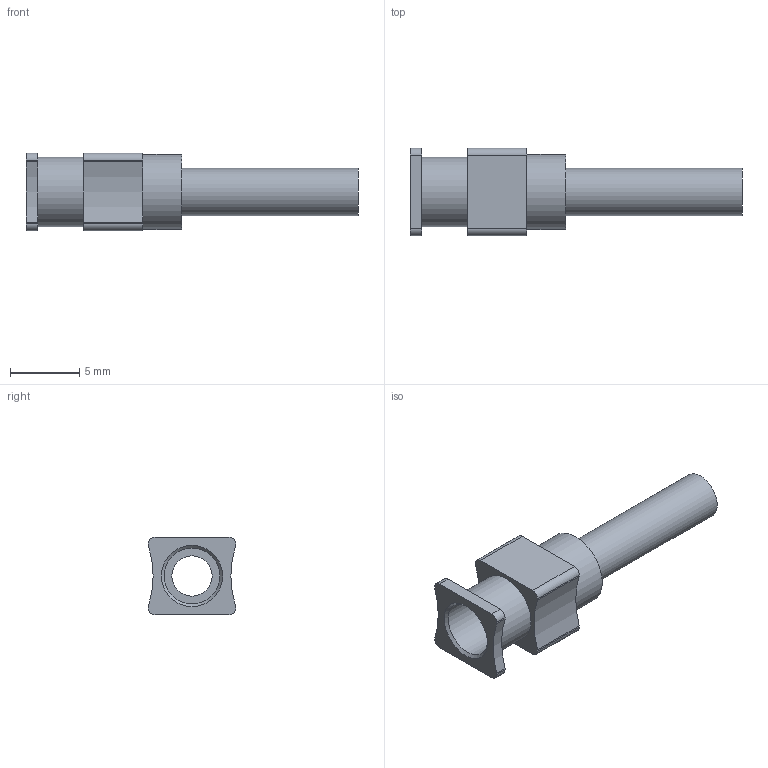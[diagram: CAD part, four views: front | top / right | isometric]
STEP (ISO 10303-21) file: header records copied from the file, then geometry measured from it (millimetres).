
FILE_DESCRIPTION (( 'STEP AP214' ), '1' );
FILE_NAME ('DAV SS 10 05.STEP', '2022-04-14T11:13:43', ( '' ), ( '' ), 'SwSTEP 2.0', 'SolidWorks 2021', '' );
FILE_SCHEMA (( 'AUTOMOTIVE_DESIGN' ));
Length unit declared in the file: millimetre
Products named in the file (1): DAV SS 10 05
Bounding box: 23.9 x 6.3 x 5.6 mm (x, y, z)
Volume: 211.6 mm3; surface area: 673.5 mm2
Topology: 1 solids, 1 shells, 37 faces, 90 edges, 60 vertices
Faces by surface type: plane 19, cylinder 17, cone 1
Full cylindrical faces by diameter (mm): 2.9 x1, 3.4 x1, 4 x1, 5 x1, 5.4 x1
Entity records: 1098 total; most frequent: DIRECTION 194, CARTESIAN_POINT 180, ORIENTED_EDGE 166, EDGE_CURVE 83, AXIS2_PLACEMENT_3D 73, VERTEX_POINT 59, EDGE_LOOP 50, VECTOR 48
